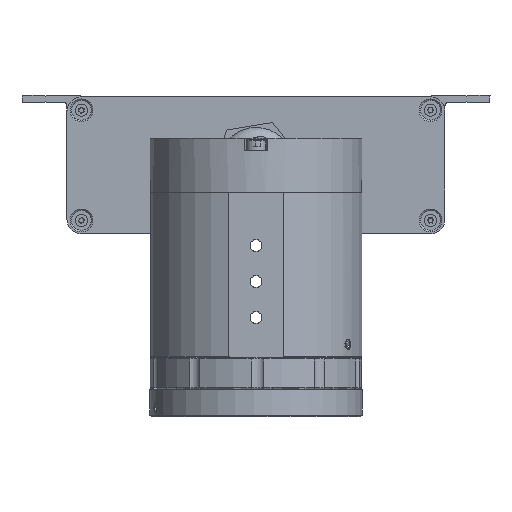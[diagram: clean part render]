
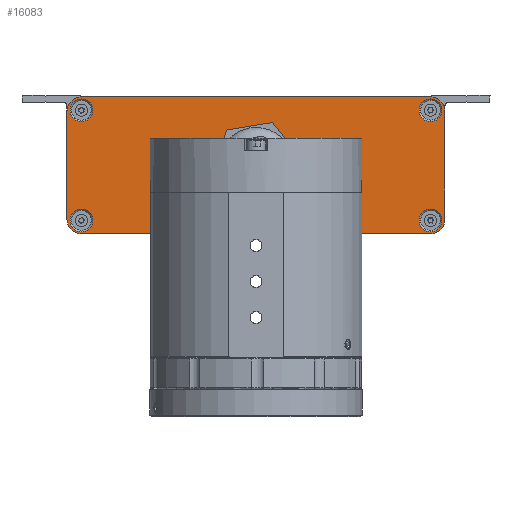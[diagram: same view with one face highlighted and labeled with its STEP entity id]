
A CAD part, left-side view. The second image highlights one B-rep face of the part: STEP entity #16083.
In plain terms, the highlighted planar face has unit normal (-1, 0, 0).
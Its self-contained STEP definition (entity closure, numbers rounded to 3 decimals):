
#38 = EDGE_LOOP ( 'NONE', ( #22482 ) ) ;
#169 = CARTESIAN_POINT ( 'NONE',  ( 176., -48.5, 88.9 ) ) ;
#396 = EDGE_CURVE ( 'NONE', #6078, #2471, #17382, .T. ) ;
#732 = CARTESIAN_POINT ( 'NONE',  ( 176., 48.5, 85.2 ) ) ;
#770 = LINE ( 'NONE', #28050, #1378 ) ;
#817 = CARTESIAN_POINT ( 'NONE',  ( 176., 48.5, 84.9 ) ) ;
#844 = EDGE_CURVE ( 'NONE', #25879, #25879, #10000, .T. ) ;
#886 = VERTEX_POINT ( 'NONE', #20216 ) ;
#940 = EDGE_CURVE ( 'NONE', #15217, #6078, #770, .T. ) ;
#1340 = CIRCLE ( 'NONE', #6811, 3.15 ) ;
#1378 = VECTOR ( 'NONE', #23244, 1000. ) ;
#1565 = DIRECTION ( 'NONE',  ( 0., -1., 0. ) ) ;
#1593 = VERTEX_POINT ( 'NONE', #28309 ) ;
#1782 = CIRCLE ( 'NONE', #5424, 4. ) ;
#2157 = DIRECTION ( 'NONE',  ( -1., 0., 0. ) ) ;
#2471 = VERTEX_POINT ( 'NONE', #169 ) ;
#2518 = FACE_BOUND ( 'NONE', #4699, .T. ) ;
#2668 = DIRECTION ( 'NONE',  ( -1., 0., 0. ) ) ;
#2731 = AXIS2_PLACEMENT_3D ( 'NONE', #25986, #2157, #11050 ) ;
#3072 = CARTESIAN_POINT ( 'NONE',  ( 176., 52.5, 84.9 ) ) ;
#3569 = CIRCLE ( 'NONE', #15088, 4. ) ;
#3601 = VECTOR ( 'NONE', #1565, 1000. ) ;
#3629 = ORIENTED_EDGE ( 'NONE', *, *, #844, .F. ) ;
#3753 = EDGE_LOOP ( 'NONE', ( #22816 ) ) ;
#3793 = DIRECTION ( 'NONE',  ( 0., 1., 0. ) ) ;
#3847 = CARTESIAN_POINT ( 'NONE',  ( 176., -48.5, 50.9 ) ) ;
#3891 = CARTESIAN_POINT ( 'NONE',  ( 176., 52.5, 84.9 ) ) ;
#3939 = DIRECTION ( 'NONE',  ( -1., 0., 0. ) ) ;
#3950 = AXIS2_PLACEMENT_3D ( 'NONE', #17066, #19822, #10674 ) ;
#4118 = EDGE_CURVE ( 'NONE', #20634, #20634, #16088, .T. ) ;
#4356 = ORIENTED_EDGE ( 'NONE', *, *, #7565, .T. ) ;
#4410 = FACE_BOUND ( 'NONE', #19336, .T. ) ;
#4578 = CARTESIAN_POINT ( 'NONE',  ( 176., -48.5, 84.9 ) ) ;
#4699 = EDGE_LOOP ( 'NONE', ( #23300 ) ) ;
#5082 = DIRECTION ( 'NONE',  ( 0., 0., -1. ) ) ;
#5152 = AXIS2_PLACEMENT_3D ( 'NONE', #11084, #26168, #19934 ) ;
#5424 = AXIS2_PLACEMENT_3D ( 'NONE', #25575, #12547, #16882 ) ;
#5721 = ORIENTED_EDGE ( 'NONE', *, *, #20267, .T. ) ;
#5819 = DIRECTION ( 'NONE',  ( 0., -1., 0. ) ) ;
#5839 = VERTEX_POINT ( 'NONE', #3891 ) ;
#6078 = VERTEX_POINT ( 'NONE', #13252 ) ;
#6106 = DIRECTION ( 'NONE',  ( -1., 0., 0. ) ) ;
#6495 = CARTESIAN_POINT ( 'NONE',  ( 176., -45.35, 54.6 ) ) ;
#6811 = AXIS2_PLACEMENT_3D ( 'NONE', #11016, #12795, #21760 ) ;
#6816 = AXIS2_PLACEMENT_3D ( 'NONE', #27782, #3939, #3793 ) ;
#6872 = ORIENTED_EDGE ( 'NONE', *, *, #396, .T. ) ;
#7565 = EDGE_CURVE ( 'NONE', #5839, #886, #13741, .T. ) ;
#7658 = VERTEX_POINT ( 'NONE', #16495 ) ;
#8150 = AXIS2_PLACEMENT_3D ( 'NONE', #4578, #2668, #8722 ) ;
#8722 = DIRECTION ( 'NONE',  ( 0., -1., 0. ) ) ;
#8958 = EDGE_CURVE ( 'NONE', #14384, #15217, #1782, .T. ) ;
#8960 = PLANE ( 'NONE',  #22375 ) ;
#9133 = EDGE_CURVE ( 'NONE', #26991, #26991, #28544, .T. ) ;
#9581 = CARTESIAN_POINT ( 'NONE',  ( 176., 51.65, 54.6 ) ) ;
#9800 = DIRECTION ( 'NONE',  ( -1., 0., 0. ) ) ;
#9944 = DIRECTION ( 'NONE',  ( 0., 1., 0. ) ) ;
#10000 = CIRCLE ( 'NONE', #6816, 3.15 ) ;
#10674 = DIRECTION ( 'NONE',  ( 0., 1., 0. ) ) ;
#10696 = VECTOR ( 'NONE', #17527, 1000. ) ;
#10828 = CIRCLE ( 'NONE', #3950, 3.15 ) ;
#11016 = CARTESIAN_POINT ( 'NONE',  ( 176., -48.5, 85.2 ) ) ;
#11050 = DIRECTION ( 'NONE',  ( 0., 1., 0. ) ) ;
#11084 = CARTESIAN_POINT ( 'NONE',  ( 176., 48.5, 84.9 ) ) ;
#11301 = ORIENTED_EDGE ( 'NONE', *, *, #940, .T. ) ;
#11519 = EDGE_CURVE ( 'NONE', #25282, #5839, #25451, .T. ) ;
#12345 = AXIS2_PLACEMENT_3D ( 'NONE', #732, #27135, #16140 ) ;
#12382 = VERTEX_POINT ( 'NONE', #9581 ) ;
#12547 = DIRECTION ( 'NONE',  ( -1., 0., 0. ) ) ;
#12730 = EDGE_LOOP ( 'NONE', ( #23811 ) ) ;
#12795 = DIRECTION ( 'NONE',  ( -1., 0., 0. ) ) ;
#12878 = ORIENTED_EDGE ( 'NONE', *, *, #11519, .T. ) ;
#13133 = EDGE_CURVE ( 'NONE', #12382, #12382, #10828, .T. ) ;
#13252 = CARTESIAN_POINT ( 'NONE',  ( 176., -52.5, 84.9 ) ) ;
#13464 = ORIENTED_EDGE ( 'NONE', *, *, #8958, .T. ) ;
#13478 = FACE_BOUND ( 'NONE', #12730, .T. ) ;
#13549 = CARTESIAN_POINT ( 'NONE',  ( 176., 51.65, 85.2 ) ) ;
#13741 = LINE ( 'NONE', #3072, #16279 ) ;
#14384 = VERTEX_POINT ( 'NONE', #22045 ) ;
#15052 = CARTESIAN_POINT ( 'NONE',  ( 176., 48.5, 54.9 ) ) ;
#15088 = AXIS2_PLACEMENT_3D ( 'NONE', #15052, #6106, #5819 ) ;
#15217 = VERTEX_POINT ( 'NONE', #22469 ) ;
#15486 = FACE_BOUND ( 'NONE', #3753, .T. ) ;
#16083 = ADVANCED_FACE ( 'NONE', ( #4410, #13478, #2518, #15486, #20123, #17953 ), #8960, .T. ) ;
#16088 = CIRCLE ( 'NONE', #2731, 8.25 ) ;
#16140 = DIRECTION ( 'NONE',  ( 0., 1., 0. ) ) ;
#16279 = VECTOR ( 'NONE', #5082, 1000. ) ;
#16402 = LINE ( 'NONE', #3847, #3601 ) ;
#16495 = CARTESIAN_POINT ( 'NONE',  ( 176., 48.5, 50.9 ) ) ;
#16804 = EDGE_LOOP ( 'NONE', ( #12878, #4356, #22187, #25642, #13464, #11301, #6872, #5721 ) ) ;
#16882 = DIRECTION ( 'NONE',  ( 0., -1., 0. ) ) ;
#17020 = EDGE_CURVE ( 'NONE', #886, #7658, #3569, .T. ) ;
#17066 = CARTESIAN_POINT ( 'NONE',  ( 176., 48.5, 54.6 ) ) ;
#17382 = CIRCLE ( 'NONE', #8150, 4. ) ;
#17527 = DIRECTION ( 'NONE',  ( 0., 1., 0. ) ) ;
#17817 = EDGE_CURVE ( 'NONE', #7658, #14384, #16402, .T. ) ;
#17869 = EDGE_CURVE ( 'NONE', #1593, #1593, #1340, .T. ) ;
#17953 = FACE_BOUND ( 'NONE', #38, .T. ) ;
#18661 = CARTESIAN_POINT ( 'NONE',  ( 176., 48.5, 88.9 ) ) ;
#19336 = EDGE_LOOP ( 'NONE', ( #3629 ) ) ;
#19822 = DIRECTION ( 'NONE',  ( -1., 0., 0. ) ) ;
#19934 = DIRECTION ( 'NONE',  ( 0., 1., 0. ) ) ;
#20123 = FACE_OUTER_BOUND ( 'NONE', #16804, .T. ) ;
#20216 = CARTESIAN_POINT ( 'NONE',  ( 176., 52.5, 54.9 ) ) ;
#20267 = EDGE_CURVE ( 'NONE', #2471, #25282, #24025, .T. ) ;
#20634 = VERTEX_POINT ( 'NONE', #24807 ) ;
#21760 = DIRECTION ( 'NONE',  ( 0., 1., 0. ) ) ;
#22045 = CARTESIAN_POINT ( 'NONE',  ( 176., -48.5, 50.9 ) ) ;
#22139 = CARTESIAN_POINT ( 'NONE',  ( 176., -48.5, 88.9 ) ) ;
#22187 = ORIENTED_EDGE ( 'NONE', *, *, #17020, .T. ) ;
#22375 = AXIS2_PLACEMENT_3D ( 'NONE', #817, #9800, #9944 ) ;
#22469 = CARTESIAN_POINT ( 'NONE',  ( 176., -52.5, 54.9 ) ) ;
#22482 = ORIENTED_EDGE ( 'NONE', *, *, #4118, .F. ) ;
#22816 = ORIENTED_EDGE ( 'NONE', *, *, #9133, .F. ) ;
#23244 = DIRECTION ( 'NONE',  ( 0., 0., 1. ) ) ;
#23300 = ORIENTED_EDGE ( 'NONE', *, *, #13133, .F. ) ;
#23811 = ORIENTED_EDGE ( 'NONE', *, *, #17869, .F. ) ;
#24025 = LINE ( 'NONE', #22139, #10696 ) ;
#24807 = CARTESIAN_POINT ( 'NONE',  ( 176., 8.25, 69.9 ) ) ;
#25282 = VERTEX_POINT ( 'NONE', #18661 ) ;
#25451 = CIRCLE ( 'NONE', #5152, 4. ) ;
#25575 = CARTESIAN_POINT ( 'NONE',  ( 176., -48.5, 54.9 ) ) ;
#25642 = ORIENTED_EDGE ( 'NONE', *, *, #17817, .T. ) ;
#25879 = VERTEX_POINT ( 'NONE', #6495 ) ;
#25986 = CARTESIAN_POINT ( 'NONE',  ( 176., 0., 69.9 ) ) ;
#26168 = DIRECTION ( 'NONE',  ( -1., 0., 0. ) ) ;
#26991 = VERTEX_POINT ( 'NONE', #13549 ) ;
#27135 = DIRECTION ( 'NONE',  ( -1., 0., 0. ) ) ;
#27782 = CARTESIAN_POINT ( 'NONE',  ( 176., -48.5, 54.6 ) ) ;
#28050 = CARTESIAN_POINT ( 'NONE',  ( 176., -52.5, 84.9 ) ) ;
#28309 = CARTESIAN_POINT ( 'NONE',  ( 176., -45.35, 85.2 ) ) ;
#28544 = CIRCLE ( 'NONE', #12345, 3.15 ) ;
